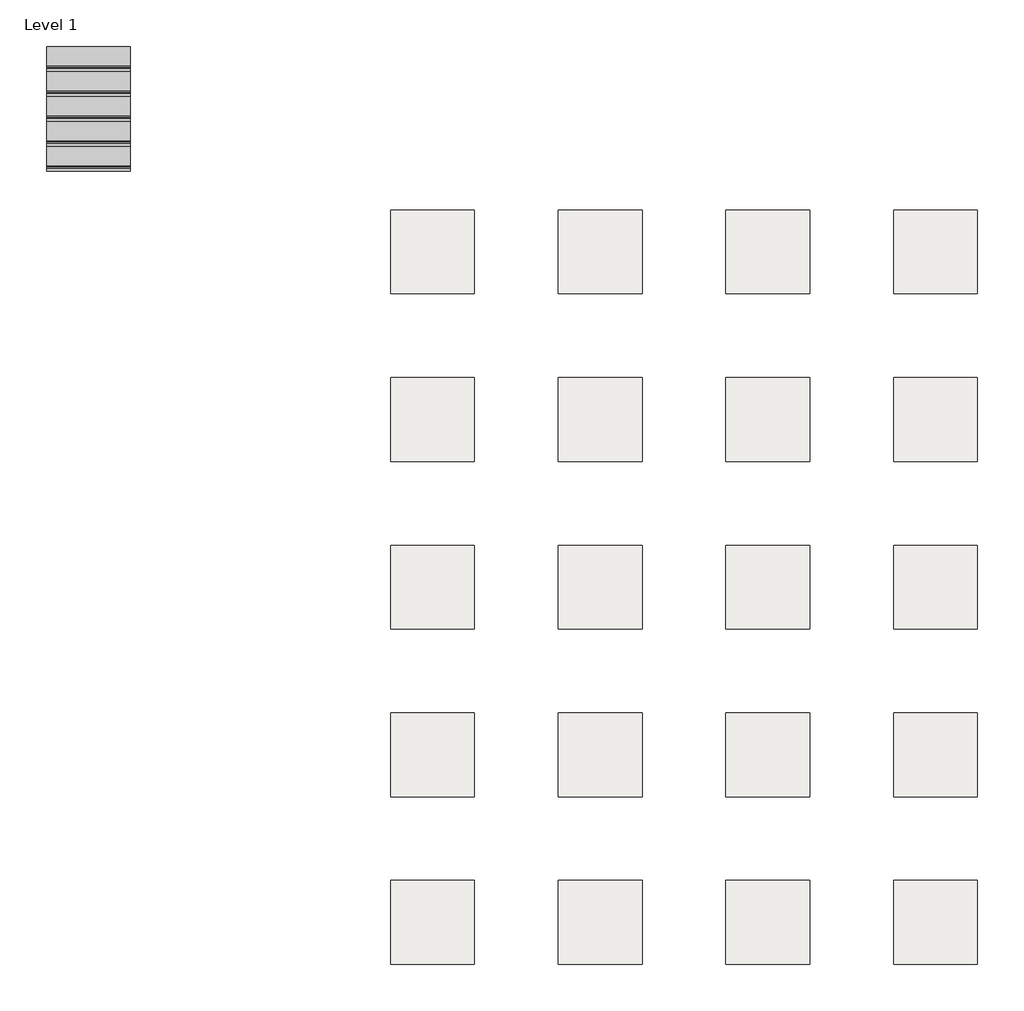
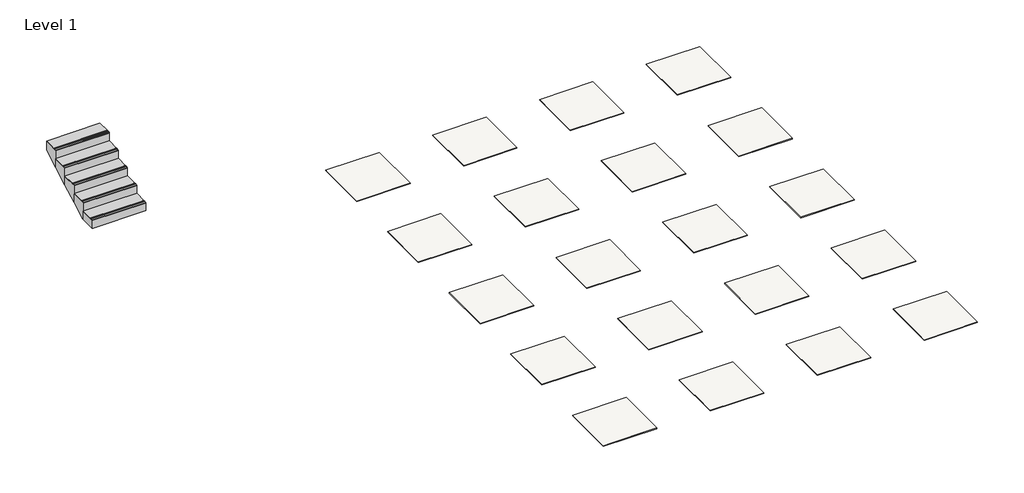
# One storey: 20 coverings, 1 stair flight.
"""IFC4 building model written with IfcOpenShell, lengths in millimetres."""

from ifc_helpers import new_model, si_unit, frame, origin, place, context, project, spatial, polyline, outline, extrude, faceted_brep, element, save

model = new_model("IFC4")

# Units and contexts
model_context = context("Model", 3, world=origin())
ifc_project = project(units=[si_unit("LENGTHUNIT", "METRE", prefix="MILLI")], contexts=[model_context])

# Site, building, storey
site = spatial("IfcSite", under=ifc_project)
building = spatial("IfcBuilding", under=site)
storey = spatial("IfcBuildingStorey", under=building, Name="Level 1", Elevation=0.0)

# Coverings
placement = place(None, origin())
element("IfcCovering", 1, ObjectType="REVIGRÉS-RULE-DG-45x90-SILK-ALLOY", at=placement, inside=storey, context=model_context, shape_type="SweptSolid", body=[
    extrude(outline(polyline([(1105.3469355, 16020.3776243), (105.3469355, 16020.3776243), (105.3469355, 17020.3776243), (1105.3469355, 17020.3776243), (1105.3469355, 16020.3776243)])), frame((0.0, 0.0, -10.5), z_axis=(0.0, 0.0, 1.0), x_axis=(1.0, 0.0, 0.0)), (0.0, 0.0, 1.0), 10.5),
])
element("IfcCovering", 2, ObjectType="REVIGRÉS-RULE-DG-45x90-SILK-SMOG", at=placement, inside=storey, context=model_context, shape_type="SweptSolid", body=[
    extrude(outline(polyline([(5105.3469355, 16020.3776243), (4105.3469355, 16020.3776243), (4105.3469355, 17020.3776243), (5105.3469355, 17020.3776243), (5105.3469355, 16020.3776243)])), frame((0.0, 0.0, -10.5), z_axis=(0.0, 0.0, 1.0), x_axis=(1.0, 0.0, 0.0)), (0.0, 0.0, 1.0), 10.5),
])
element("IfcCovering", 3, ObjectType="REVIGRÉS-RULE-DG-45x90-SOFT GRIP-ALLOY", at=placement, inside=storey, context=model_context, shape_type="SweptSolid", body=[
    extrude(outline(polyline([(3105.3469355, 16020.3776243), (2105.3469355, 16020.3776243), (2105.3469355, 17020.3776243), (3105.3469355, 17020.3776243), (3105.3469355, 16020.3776243)])), frame((0.0, 0.0, -10.5), z_axis=(0.0, 0.0, 1.0), x_axis=(1.0, 0.0, 0.0)), (0.0, 0.0, 1.0), 10.5),
])
element("IfcCovering", 4, ObjectType="REVIGRÉS-RULE-DG-45x90-SOFT GRIP-SMOG", at=placement, inside=storey, context=model_context, shape_type="SweptSolid", body=[
    extrude(outline(polyline([(7105.3469355, 16020.3776243), (6105.3469355, 16020.3776243), (6105.3469355, 17020.3776243), (7105.3469355, 17020.3776243), (7105.3469355, 16020.3776243)])), frame((0.0, 0.0, -10.5), z_axis=(0.0, 0.0, 1.0), x_axis=(1.0, 0.0, 0.0)), (0.0, 0.0, 1.0), 10.5),
])
element("IfcCovering", 5, ObjectType="REVIGRÉS-RULE-DG-30x120-SILK-ALLOY", at=placement, inside=storey, context=model_context, shape_type="SweptSolid", body=[
    extrude(outline(polyline([(1105.3469355, 14020.3776243), (105.3469355, 14020.3776243), (105.3469355, 15020.3776243), (1105.3469355, 15020.3776243), (1105.3469355, 14020.3776243)])), frame((0.0, 0.0, -10.5), z_axis=(0.0, 0.0, 1.0), x_axis=(1.0, 0.0, 0.0)), (0.0, 0.0, 1.0), 10.5),
])
element("IfcCovering", 6, ObjectType="REVIGRÉS-RULE-DG-30x120-SOFT GRIP-ALLOY", at=placement, inside=storey, context=model_context, shape_type="SweptSolid", body=[
    extrude(outline(polyline([(3105.3469355, 14020.3776243), (2105.3469355, 14020.3776243), (2105.3469355, 15020.3776243), (3105.3469355, 15020.3776243), (3105.3469355, 14020.3776243)])), frame((0.0, 0.0, -10.5), z_axis=(0.0, 0.0, 1.0), x_axis=(1.0, 0.0, 0.0)), (0.0, 0.0, 1.0), 10.5),
])
element("IfcCovering", 7, ObjectType="REVIGRÉS-RULE-DG-30x60-SILK-ALLOY", at=placement, inside=storey, context=model_context, shape_type="SweptSolid", body=[
    extrude(outline(polyline([(1105.3469355, 12020.3776243), (105.3469355, 12020.3776243), (105.3469355, 13020.3776243), (1105.3469355, 13020.3776243), (1105.3469355, 12020.3776243)])), frame((0.0, 0.0, -11.2), z_axis=(0.0, 0.0, 1.0), x_axis=(1.0, 0.0, 0.0)), (0.0, 0.0, 1.0), 11.2),
])
element("IfcCovering", 8, ObjectType="REVIGRÉS-RULE-DG-30x60-SOFT GRIP-ALLOY", at=placement, inside=storey, context=model_context, shape_type="SweptSolid", body=[
    extrude(outline(polyline([(3105.3469355, 12020.3776243), (2105.3469355, 12020.3776243), (2105.3469355, 13020.3776243), (3105.3469355, 13020.3776243), (3105.3469355, 12020.3776243)])), frame((0.0, 0.0, -11.2), z_axis=(0.0, 0.0, 1.0), x_axis=(1.0, 0.0, 0.0)), (0.0, 0.0, 1.0), 11.2),
])
element("IfcCovering", 9, ObjectType="REVIGRÉS-RULE-DG-60x120-SILK-ALLOY", at=placement, inside=storey, context=model_context, shape_type="SweptSolid", body=[
    extrude(outline(polyline([(1105.3469355, 10020.3776243), (105.3469355, 10020.3776243), (105.3469355, 11020.3776243), (1105.3469355, 11020.3776243), (1105.3469355, 10020.3776243)])), frame((0.0, 0.0, -10.5), z_axis=(0.0, 0.0, 1.0), x_axis=(1.0, 0.0, 0.0)), (0.0, 0.0, 1.0), 10.5),
])
element("IfcCovering", 10, ObjectType="REVIGRÉS-RULE-DG-60x120-SOFT GRIP-ALLOY", at=placement, inside=storey, context=model_context, shape_type="SweptSolid", body=[
    extrude(outline(polyline([(3105.3469355, 10020.3776243), (2105.3469355, 10020.3776243), (2105.3469355, 11020.3776243), (3105.3469355, 11020.3776243), (3105.3469355, 10020.3776243)])), frame((0.0, 0.0, -10.5), z_axis=(0.0, 0.0, 1.0), x_axis=(1.0, 0.0, 0.0)), (0.0, 0.0, 1.0), 10.5),
])
element("IfcCovering", 11, ObjectType="REVIGRÉS-RULE-DG-60x60-SILK-ALLOY", at=placement, inside=storey, context=model_context, shape_type="SweptSolid", body=[
    extrude(outline(polyline([(1105.3469355, 8020.3776243), (105.3469355, 8020.3776243), (105.3469355, 9020.3776243), (1105.3469355, 9020.3776243), (1105.3469355, 8020.3776243)])), frame((0.0, 0.0, -10.5), z_axis=(0.0, 0.0, 1.0), x_axis=(1.0, 0.0, 0.0)), (0.0, 0.0, 1.0), 10.5),
])
element("IfcCovering", 12, ObjectType="REVIGRÉS-RULE-DG-60x60-SOFT GRIP-ALLOY", at=placement, inside=storey, context=model_context, shape_type="SweptSolid", body=[
    extrude(outline(polyline([(3105.3469355, 8020.3776243), (2105.3469355, 8020.3776243), (2105.3469355, 9020.3776243), (3105.3469355, 9020.3776243), (3105.3469355, 8020.3776243)])), frame((0.0, 0.0, -10.5), z_axis=(0.0, 0.0, 1.0), x_axis=(1.0, 0.0, 0.0)), (0.0, 0.0, 1.0), 10.5),
])
element("IfcCovering", 13, ObjectType="REVIGRÉS-RULE-DG-30x120-SILK-SMOG", at=placement, inside=storey, context=model_context, shape_type="SweptSolid", body=[
    extrude(outline(polyline([(5105.3469355, 14020.3776243), (4105.3469355, 14020.3776243), (4105.3469355, 15020.3776243), (5105.3469355, 15020.3776243), (5105.3469355, 14020.3776243)])), frame((0.0, 0.0, -10.5), z_axis=(0.0, 0.0, 1.0), x_axis=(1.0, 0.0, 0.0)), (0.0, 0.0, 1.0), 10.5),
])
element("IfcCovering", 14, ObjectType="REVIGRÉS-RULE-DG-30x120-SOFT GRIP-SMOG", at=placement, inside=storey, context=model_context, shape_type="SweptSolid", body=[
    extrude(outline(polyline([(7105.3469355, 14020.3776243), (6105.3469355, 14020.3776243), (6105.3469355, 15020.3776243), (7105.3469355, 15020.3776243), (7105.3469355, 14020.3776243)])), frame((0.0, 0.0, -10.5), z_axis=(0.0, 0.0, 1.0), x_axis=(1.0, 0.0, 0.0)), (0.0, 0.0, 1.0), 10.5),
])
element("IfcCovering", 15, ObjectType="REVIGRÉS-RULE-DG-30x60-SILK-SMOG", at=placement, inside=storey, context=model_context, shape_type="SweptSolid", body=[
    extrude(outline(polyline([(5105.3469355, 12020.3776243), (4105.3469355, 12020.3776243), (4105.3469355, 13020.3776243), (5105.3469355, 13020.3776243), (5105.3469355, 12020.3776243)])), frame((0.0, 0.0, -11.2), z_axis=(0.0, 0.0, 1.0), x_axis=(1.0, 0.0, 0.0)), (0.0, 0.0, 1.0), 11.2),
])
element("IfcCovering", 16, ObjectType="REVIGRÉS-RULE-DG-30x60-SOFT GRIP-SMOG", at=placement, inside=storey, context=model_context, shape_type="SweptSolid", body=[
    extrude(outline(polyline([(7105.3469355, 12020.3776243), (6105.3469355, 12020.3776243), (6105.3469355, 13020.3776243), (7105.3469355, 13020.3776243), (7105.3469355, 12020.3776243)])), frame((0.0, 0.0, -11.2), z_axis=(0.0, 0.0, 1.0), x_axis=(1.0, 0.0, 0.0)), (0.0, 0.0, 1.0), 11.2),
])
element("IfcCovering", 17, ObjectType="REVIGRÉS-RULE-DG-60x120-SILK-SMOG", at=placement, inside=storey, context=model_context, shape_type="SweptSolid", body=[
    extrude(outline(polyline([(5105.3469355, 10020.3776243), (4105.3469355, 10020.3776243), (4105.3469355, 11020.3776243), (5105.3469355, 11020.3776243), (5105.3469355, 10020.3776243)])), frame((0.0, 0.0, -10.5), z_axis=(0.0, 0.0, 1.0), x_axis=(1.0, 0.0, 0.0)), (0.0, 0.0, 1.0), 10.5),
])
element("IfcCovering", 18, ObjectType="REVIGRÉS-RULE-DG-60x120-SOFT GRIP-SMOG", at=placement, inside=storey, context=model_context, shape_type="SweptSolid", body=[
    extrude(outline(polyline([(7105.3469355, 10020.3776243), (6105.3469355, 10020.3776243), (6105.3469355, 11020.3776243), (7105.3469355, 11020.3776243), (7105.3469355, 10020.3776243)])), frame((0.0, 0.0, -10.5), z_axis=(0.0, 0.0, 1.0), x_axis=(1.0, 0.0, 0.0)), (0.0, 0.0, 1.0), 10.5),
])
element("IfcCovering", 19, ObjectType="REVIGRÉS-RULE-DG-60x60-SILK-SMOG", at=placement, inside=storey, context=model_context, shape_type="SweptSolid", body=[
    extrude(outline(polyline([(5105.3469355, 8020.3776243), (4105.3469355, 8020.3776243), (4105.3469355, 9020.3776243), (5105.3469355, 9020.3776243), (5105.3469355, 8020.3776243)])), frame((0.0, 0.0, -10.5), z_axis=(0.0, 0.0, 1.0), x_axis=(1.0, 0.0, 0.0)), (0.0, 0.0, 1.0), 10.5),
])
element("IfcCovering", 20, ObjectType="REVIGRÉS-RULE-DG-60x60-SOFT GRIP-SMOG", at=placement, inside=storey, context=model_context, shape_type="SweptSolid", body=[
    extrude(outline(polyline([(7105.3469355, 8020.3776243), (6105.3469355, 8020.3776243), (6105.3469355, 9020.3776243), (7105.3469355, 9020.3776243), (7105.3469355, 8020.3776243)])), frame((0.0, 0.0, -10.5), z_axis=(0.0, 0.0, 1.0), x_axis=(1.0, 0.0, 0.0)), (0.0, 0.0, 1.0), 10.5),
])

# Stair flight
element("IfcStairFlight", 21, ObjectType="REVIGRÉS-RULE-DG-30x60 SILK_SOFT GRIP", at=placement, inside=storey, context=model_context, shape_type="SolidModel", body=[
    faceted_brep([(-3996.6638962, 17783.2759328, 156.1666667), (-3996.6638962, 17486.2759328, 156.1666667), (-2996.6638962, 17486.2759328, 156.1666667), (-2996.6638962, 17783.2759328, 156.1666667), (-3996.6638962, 17783.2759328, 0.0), (-3996.6638962, 17486.2759328, 0.0), (-2996.6638962, 17486.2759328, 0.0), (-2996.6638962, 17783.2759328, 0.0), (-3996.6638962, 18080.2759328, 322.8333333), (-3996.6638962, 17783.2759328, 322.8333333), (-2996.6638962, 17783.2759328, 322.8333333), (-2996.6638962, 18080.2759328, 322.8333333), (-3996.6638962, 18080.2759328, 150.8291334), (-3996.6638962, 17811.498417, 0.0), (-2996.6638962, 17811.498417, 0.0), (-2996.6638962, 18080.2759328, 150.8291334), (-3996.6638962, 18377.2759328, 489.5), (-3996.6638962, 18080.2759328, 489.5), (-2996.6638962, 18080.2759328, 489.5), (-2996.6638962, 18377.2759328, 489.5), (-3996.6638962, 18377.2759328, 317.4958001), (-2996.6638962, 18377.2759328, 317.4958001), (-3996.6638962, 18674.2759328, 656.1666667), (-3996.6638962, 18377.2759328, 656.1666667), (-2996.6638962, 18377.2759328, 656.1666667), (-2996.6638962, 18674.2759328, 656.1666667), (-3996.6638962, 18674.2759328, 484.1624667), (-2996.6638962, 18674.2759328, 484.1624667), (-3996.6638962, 18971.2759328, 822.8333333), (-3996.6638962, 18674.2759328, 822.8333333), (-2996.6638962, 18674.2759328, 822.8333333), (-2996.6638962, 18971.2759328, 822.8333333), (-3996.6638962, 18971.2759328, 650.8291334), (-2996.6638962, 18971.2759328, 650.8291334)], [[[0, 1, 2, 3]], [[1, 0, 4, 5]], [[2, 1, 5, 6]], [[3, 2, 6, 7]], [[8, 9, 10, 11]], [[4, 0, 9, 8, 12, 13]], [[0, 3, 10, 9]], [[3, 7, 14, 15, 11, 10]], [[16, 17, 18, 19]], [[17, 16, 20, 12, 8]], [[8, 11, 18, 17]], [[19, 18, 11, 15, 21]], [[22, 23, 24, 25]], [[23, 22, 26, 20, 16]], [[16, 19, 24, 23]], [[25, 24, 19, 21, 27]], [[28, 29, 30, 31]], [[29, 28, 32, 26, 22]], [[22, 25, 30, 29]], [[31, 30, 25, 27, 33]], [[28, 31, 33, 32]], [[5, 4, 13, 14, 7, 6]], [[14, 13, 12, 20, 26, 32, 33, 27, 21, 15]]]),
    extrude(outline(polyline([(17516.2759328, 166.6666667), (17516.2759328, 165.6666667), (17521.2759328, 165.6666667), (17521.2759328, 166.6666667), (17531.2759328, 166.6666667), (17531.2759328, 165.6666667), (17536.2759328, 165.6666667), (17536.2759328, 166.6666667), (17546.2759328, 166.6666667), (17546.2759328, 165.6666667), (17551.2759328, 165.6666667), (17551.2759328, 166.6666667), (17783.2759328, 166.6666667), (17783.2759328, 156.8666667), (17486.2759328, 156.8666667), (17486.2759328, 166.6666667), (17516.2759328, 166.6666667)])), frame((-3996.6638962, 0.0, 0.0), z_axis=(1.0, 0.0, 0.0), x_axis=(0.0, 1.0, 0.0)), (0.0, 0.0, 1.0), 1000.0),
    extrude(outline(polyline([(17813.2759328, 333.3333333), (17813.2759328, 332.3333333), (17818.2759328, 332.3333333), (17818.2759328, 333.3333333), (17828.2759328, 333.3333333), (17828.2759328, 332.3333333), (17833.2759328, 332.3333333), (17833.2759328, 333.3333333), (17843.2759328, 333.3333333), (17843.2759328, 332.3333333), (17848.2759328, 332.3333333), (17848.2759328, 333.3333333), (18080.2759328, 333.3333333), (18080.2759328, 323.5333333), (17783.2759328, 323.5333333), (17783.2759328, 333.3333333), (17813.2759328, 333.3333333)])), frame((-3996.6638962, 0.0, 0.0), z_axis=(1.0, 0.0, 0.0), x_axis=(0.0, 1.0, 0.0)), (0.0, 0.0, 1.0), 1000.0),
    extrude(outline(polyline([(18110.2759328, 500.0), (18110.2759328, 499.0), (18115.2759328, 499.0), (18115.2759328, 500.0), (18125.2759328, 500.0), (18125.2759328, 499.0), (18130.2759328, 499.0), (18130.2759328, 500.0), (18140.2759328, 500.0), (18140.2759328, 499.0), (18145.2759328, 499.0), (18145.2759328, 500.0), (18377.2759328, 500.0), (18377.2759328, 490.2), (18080.2759328, 490.2), (18080.2759328, 500.0), (18110.2759328, 500.0)])), frame((-3996.6638962, 0.0, 0.0), z_axis=(1.0, 0.0, 0.0), x_axis=(0.0, 1.0, 0.0)), (0.0, 0.0, 1.0), 1000.0),
    extrude(outline(polyline([(18407.2759328, 666.6666667), (18407.2759328, 665.6666667), (18412.2759328, 665.6666667), (18412.2759328, 666.6666667), (18422.2759328, 666.6666667), (18422.2759328, 665.6666667), (18427.2759328, 665.6666667), (18427.2759328, 666.6666667), (18437.2759328, 666.6666667), (18437.2759328, 665.6666667), (18442.2759328, 665.6666667), (18442.2759328, 666.6666667), (18674.2759328, 666.6666667), (18674.2759328, 656.8666667), (18377.2759328, 656.8666667), (18377.2759328, 666.6666667), (18407.2759328, 666.6666667)])), frame((-3996.6638962, 0.0, 0.0), z_axis=(1.0, 0.0, 0.0), x_axis=(0.0, 1.0, 0.0)), (0.0, 0.0, 1.0), 1000.0),
    extrude(outline(polyline([(18704.2759328, 833.3333333), (18704.2759328, 832.3333333), (18709.2759328, 832.3333333), (18709.2759328, 833.3333333), (18719.2759328, 833.3333333), (18719.2759328, 832.3333333), (18724.2759328, 832.3333333), (18724.2759328, 833.3333333), (18734.2759328, 833.3333333), (18734.2759328, 832.3333333), (18739.2759328, 832.3333333), (18739.2759328, 833.3333333), (18971.2759328, 833.3333333), (18971.2759328, 823.5333333), (18674.2759328, 823.5333333), (18674.2759328, 833.3333333), (18704.2759328, 833.3333333)])), frame((-3996.6638962, 0.0, 0.0), z_axis=(1.0, 0.0, 0.0), x_axis=(0.0, 1.0, 0.0)), (0.0, 0.0, 1.0), 1000.0),
])

save(model, "model.ifc")
